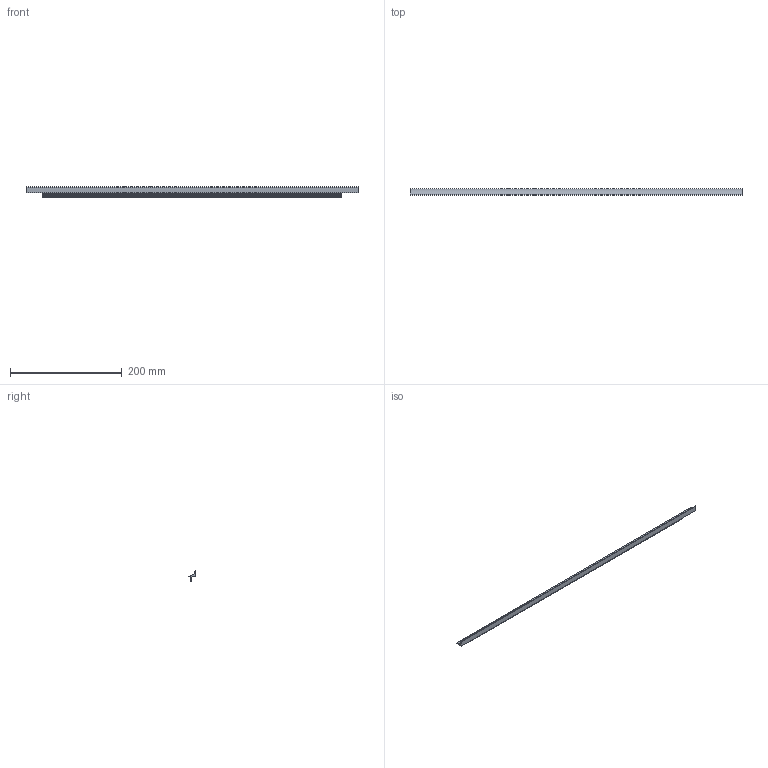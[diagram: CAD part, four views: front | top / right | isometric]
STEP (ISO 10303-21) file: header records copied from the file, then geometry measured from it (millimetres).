
FILE_DESCRIPTION( ( 'STEP AP214' ), '1' );
FILE_NAME( 'D:/Shahbaz D&D/Task/Working-ON/Correct Handle bar Riaza/QC/9208093/9208093.stp', '2023-03-13T09:04:37', ( '' ), ( '' ), ' ', 'PARTsolutions', ' ' );
FILE_SCHEMA( ( 'AUTOMOTIVE_DESIGN { 1 0 10303 214 1 1 1 1 }' ) );
Length unit declared in the file: millimetre
Products named in the file (1): _9208093
Bounding box: 595 x 12.49 x 18 mm (x, y, z)
Volume: 33518.7 mm3; surface area: 34429.3 mm2
Topology: 1 solids, 1 shells, 28 faces, 75 edges, 50 vertices
Faces by surface type: plane 25, cylinder 3
Entity records: 1105 total; most frequent: CARTESIAN_POINT 154, ORIENTED_EDGE 150, DIRECTION 139, EDGE_CURVE 75, LINE 69, VECTOR 69, VERTEX_POINT 50, AXIS2_PLACEMENT_3D 35
